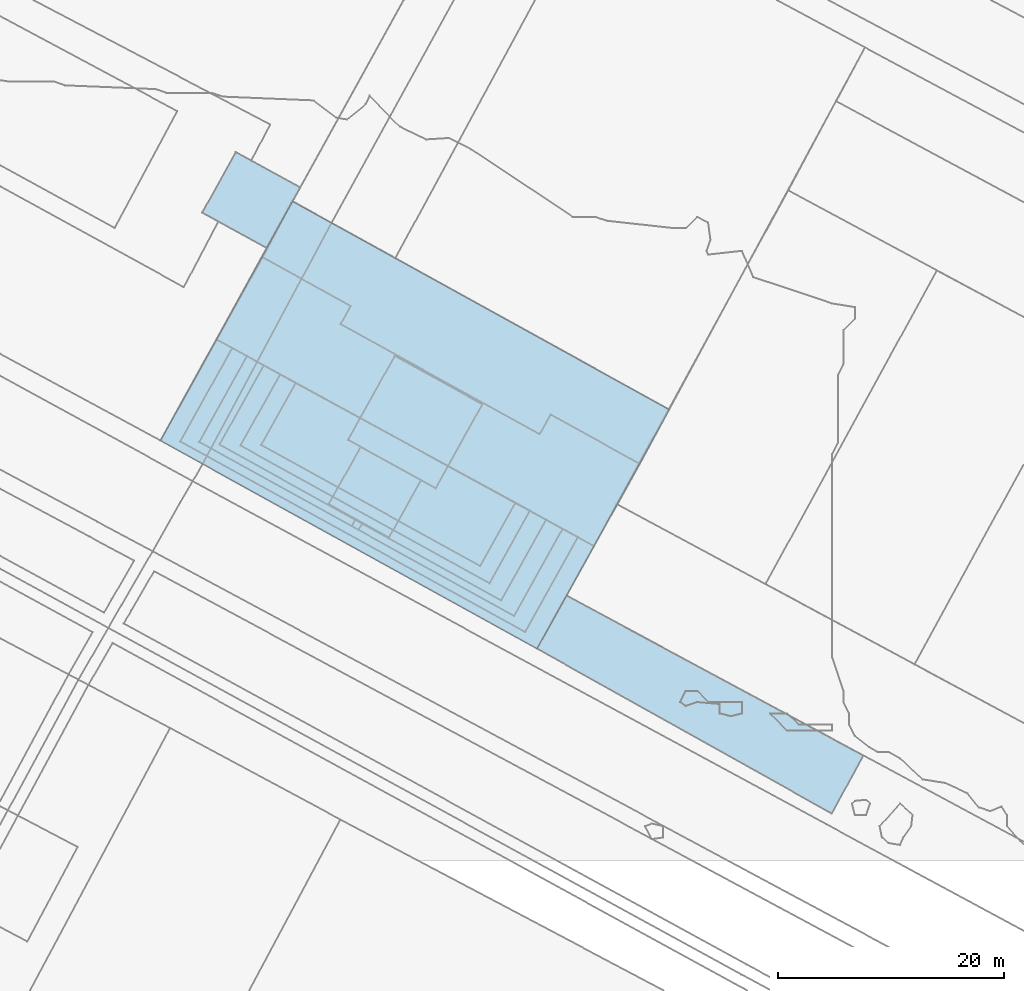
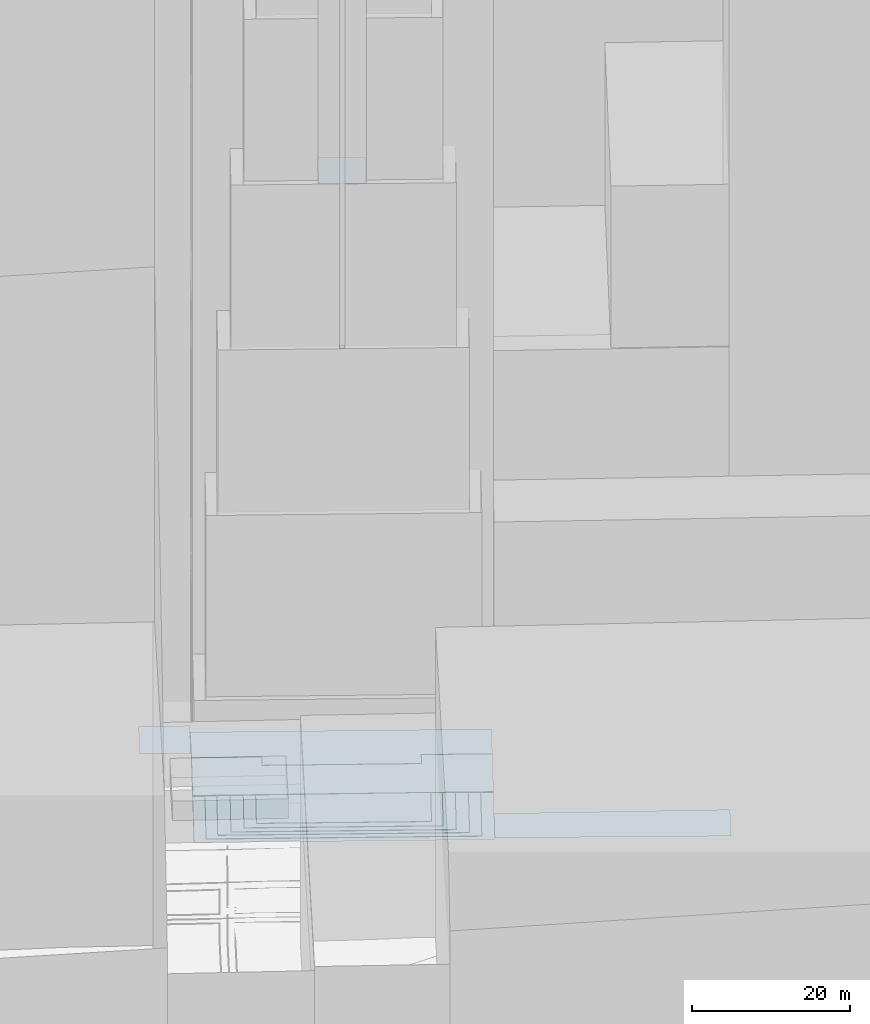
# Not in any storey, part 2 of 80: 14 footings.
"""IFC4 building model written with IfcOpenShell, lengths in metres."""

from ifc_helpers import new_model, si_unit, frame, origin_with_axes, place, context, subcontext, project, spatial, polygons, element, save


model = new_model("IFC4")

# Units and contexts
model_context = context("Model", 3, precision=1e-05, world=origin_with_axes())
body_context = subcontext(model_context, "Body", "Model", "MODEL_VIEW")
ifc_project = project(units=[si_unit("AREAUNIT", "SQUARE_METRE"), si_unit("LENGTHUNIT", "METRE")], contexts=[model_context])

# Sites, building
site_1_placement = place(None, origin_with_axes())
site_1 = spatial("IfcSite", under=ifc_project, at=site_1_placement, Name="Topoexport Site")
site_2_placement = place(site_1_placement, origin_with_axes())
site_2 = spatial("IfcSite", under=site_1, at=site_2_placement, Name="TPX_BATIMENTS")
building_1_placement = place(site_2_placement, frame((114.0067788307, 18.7761491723, 19.812011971), z_axis=(0.0, 0.0, 1.0), x_axis=(1.0, 0.0, 0.0)))
building_1 = spatial("IfcBuilding", under=site_2, at=building_1_placement, Name="Batiment 14", CompositionType="ELEMENT")

# Footing
footing_1_placement = place(None, frame((114.0067788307, 18.7761491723, 19.812011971), z_axis=(0.0, 0.0, 1.0), x_axis=(1.0, 0.0, 0.0)))
element("IfcFooting", 1, at=footing_1_placement, inside=building_1, Name="Sol 0", context=body_context, shape_type="Tessellation", body=[
    polygons([(0.0, 0.0, 0.0), (26.1365112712, -14.6177862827, 0.0), (28.9299641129, -9.4671911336, 0.0), (2.6213710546, 4.7044961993, 0.0)], [[[2, 1, 4]], [[4, 3, 2]]]),
])

# Building
building_2_placement = place(site_2_placement, frame((80.6336597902, 37.2179875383, 19.5500389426), z_axis=(0.0, 0.0, 1.0), x_axis=(1.0, 0.0, 0.0)))
building_2 = spatial("IfcBuilding", under=site_2, at=building_2_placement, Name="Batiment 21", CompositionType="ELEMENT")

# Footing
footing_2_placement = place(None, frame((80.6336597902, 37.2179875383, 19.5500389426), z_axis=(0.0, 0.0, 1.0), x_axis=(1.0, 0.0, 0.0)))
element("IfcFooting", 2, at=footing_2_placement, inside=building_2, Name="Sol 0", context=body_context, shape_type="Tessellation", body=[
    polygons([(0.0, 0.0, 0.0), (33.3731190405, -18.441838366, 0.0), (45.0971948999, 2.7553209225, 0.0), (11.6985592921, 21.2190134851, 0.0)], [[[2, 1, 4]], [[4, 3, 2]]]),
])

# Building
building_3_placement = place(site_2_placement, frame((97.2544970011, 37.2888688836, 19.612828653), z_axis=(0.0, 0.0, 1.0), x_axis=(1.0, 0.0, 0.0)))
building_3 = spatial("IfcBuilding", under=site_2, at=building_3_placement, Name="Batiment 22", CompositionType="ELEMENT")

# Footing
footing_3_placement = place(None, frame((97.2544970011, 37.2888688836, 19.612828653), z_axis=(0.0, 0.0, 1.0), x_axis=(1.0, 0.0, 0.0)))
element("IfcFooting", 3, at=footing_3_placement, inside=building_3, Name="Sol 0", context=body_context, shape_type="Tessellation", body=[
    polygons([(0.0, 0.0, 0.0), (7.7655788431, -4.295199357, 0.0), (11.9084198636, 3.14701657, 0.0), (4.1512866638, 7.4423095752, 0.0)], [[[2, 1, 4]], [[4, 3, 2]]]),
])

# Building
building_4_placement = place(site_2_placement, frame((85.6283664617, 46.1799867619, 19.6882360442), z_axis=(0.0, 0.0, 1.0), x_axis=(1.0, 0.0, 0.0)))
building_4 = spatial("IfcBuilding", under=site_2, at=building_4_placement, Name="Batiment 23", CompositionType="ELEMENT")

# Footing
footing_4_placement = place(None, frame((85.6283664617, 46.1799867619, 19.6882360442), z_axis=(0.0, 0.0, 1.0), x_axis=(1.0, 0.0, 0.0)))
element("IfcFooting", 4, at=footing_4_placement, inside=building_4, Name="Sol 0", context=body_context, shape_type="Tessellation", body=[
    polygons([(0.0, 0.0, 0.0), (33.4391985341, -18.3189230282, 0.0), (37.4908592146, -11.0220874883, 0.0), (29.5893203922, -6.650770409, 0.0), (28.6218928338, -8.3939587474, 0.0), (10.9668168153, 1.3597031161, 0.0), (11.8682699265, 2.9688959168, 0.0), (4.0518112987, 7.2857163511, 0.0)], [[[2, 1, 8]], [[4, 3, 2]], [[8, 7, 6]], [[5, 4, 2]], [[2, 8, 6]], [[6, 5, 2]]]),
])

# Building
building_5_placement = place(site_2_placement, frame((89.6801777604, 53.465703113, 19.6964299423), z_axis=(0.0, 0.0, 1.0), x_axis=(1.0, 0.0, 0.0)))
building_5 = spatial("IfcBuilding", under=site_2, at=building_5_placement, Name="Batiment 24", CompositionType="ELEMENT")

# Footing
footing_5_placement = place(None, frame((89.6801777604, 53.465703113, 19.6964299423), z_axis=(0.0, 0.0, 1.0), x_axis=(1.0, 0.0, 0.0)))
element("IfcFooting", 5, at=footing_5_placement, inside=building_5, Name="Sol 0", context=body_context, shape_type="Tessellation", body=[
    polygons([(0.0, 0.0, 0.0), (7.8164586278, -4.3168204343, 0.0), (6.9150055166, -5.926013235, 0.0), (24.5700815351, -15.6796750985, 0.0), (25.5375090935, -13.9364867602, 0.0), (33.4390479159, -18.3078038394, 0.0), (36.0506769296, -13.4923946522, 0.0), (2.6520413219, 4.9712979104, 0.0)], [[[2, 1, 8]], [[4, 3, 2]], [[7, 6, 5]], [[2, 8, 7]], [[5, 4, 2]], [[2, 7, 5]]]),
])

# Building
building_6_placement = place(site_2_placement, frame((84.3328700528, 57.422623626, 19.717099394), z_axis=(0.0, 0.0, 1.0), x_axis=(1.0, 0.0, 0.0)))
building_6 = spatial("IfcBuilding", under=site_2, at=building_6_placement, Name="Batiment 208", CompositionType="ELEMENT")

# Footing
footing_6_placement = place(None, frame((84.3328700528, 57.422623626, 19.717099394), z_axis=(0.0, 0.0, 1.0), x_axis=(1.0, 0.0, 0.0)))
element("IfcFooting", 6, at=footing_6_placement, inside=building_6, Name="Sol 0", context=body_context, shape_type="Tessellation", body=[
    polygons([(0.0, 0.0, 0.0), (5.7007108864, -3.131250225, 0.0), (8.685731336, 2.2435956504, 0.0), (2.9850231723, 5.3748435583, 0.0)], [[[2, 1, 4]], [[4, 3, 2]]]),
])

# Building
building_7_placement = place(site_2_placement, frame((89.5609801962, 36.8331506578, 19.6677865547), z_axis=(0.0, 0.0, 1.0), x_axis=(1.0, 0.0, 0.0)))
building_7 = spatial("IfcBuilding", under=site_2, at=building_7_placement, Name="Batiment 209", CompositionType="ELEMENT")

# Footing
footing_7_placement = place(None, frame((89.5609801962, 36.8331506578, 19.6677865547), z_axis=(0.0, 0.0, 1.0), x_axis=(1.0, 0.0, 0.0)))
element("IfcFooting", 7, at=footing_7_placement, inside=building_7, Name="Sol 0", context=body_context, shape_type="Tessellation", body=[
    polygons([(0.0, 0.0, 0.0), (19.4138892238, -10.7324529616, 0.0), (22.5396898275, -5.1228171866, 0.0), (3.0597039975, 5.4867351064, 0.0)], [[[2, 1, 4]], [[4, 3, 2]]]),
])

# Building
building_8_placement = place(site_2_placement, frame((87.7213295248, 36.7784814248, 19.6583385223), z_axis=(0.0, 0.0, 1.0), x_axis=(1.0, 0.0, 0.0)))
building_8 = spatial("IfcBuilding", under=site_2, at=building_8_placement, Name="Batiment 210", CompositionType="ELEMENT")

# Footing
footing_8_placement = place(None, frame((87.7213295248, 36.7784814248, 19.6583385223), z_axis=(0.0, 0.0, 1.0), x_axis=(1.0, 0.0, 0.0)))
element("IfcFooting", 8, at=footing_8_placement, inside=building_8, Name="Sol 0", context=body_context, shape_type="Tessellation", body=[
    polygons([(0.0, 0.0, 0.0), (22.0733143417, -12.2114746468, 0.0), (25.6622439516, -5.774892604, 0.0), (24.3793404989, -5.0681479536, 0.0), (21.2535398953, -10.6777837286, 0.0), (1.8396506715, 0.054669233, 0.0), (4.8993546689, 5.5414043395, 0.0), (3.514524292, 6.3024800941, 0.0)], [[[4, 3, 2]], [[8, 7, 6]], [[5, 4, 2]], [[1, 8, 6]], [[5, 2, 1]], [[1, 6, 5]]]),
])

# Building
building_9_placement = place(site_2_placement, frame((85.863250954, 36.8568256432, 19.6310872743), z_axis=(0.0, 0.0, 1.0), x_axis=(1.0, 0.0, 0.0)))
building_9 = spatial("IfcBuilding", under=site_2, at=building_9_placement, Name="Batiment 211", CompositionType="ELEMENT")

# Footing
footing_9_placement = place(None, frame((85.863250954, 36.8568256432, 19.6310872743), z_axis=(0.0, 0.0, 1.0), x_axis=(1.0, 0.0, 0.0)))
element("IfcFooting", 9, at=footing_9_placement, inside=building_9, Name="Sol 0", context=body_context, shape_type="Tessellation", body=[
    polygons([(0.0, 0.0, 0.0), (24.9704931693, -13.8098599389, 0.0), (28.9646281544, -6.6469244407, 0.0), (27.5203225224, -5.8532368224, 0.0), (23.9313929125, -12.2898188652, 0.0), (1.8580785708, -0.0783442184, 0.0), (5.3726028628, 6.2241358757, 0.0), (3.9197328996, 7.0288307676, 0.0)], [[[4, 3, 2]], [[8, 7, 6]], [[5, 4, 2]], [[1, 8, 6]], [[5, 2, 1]], [[1, 6, 5]]]),
])

# Building
building_10_placement = place(site_2_placement, frame((80.6336597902, 37.2179875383, 19.5500389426), z_axis=(0.0, 0.0, 1.0), x_axis=(1.0, 0.0, 0.0)))
building_10 = spatial("IfcBuilding", under=site_2, at=building_10_placement, Name="Batiment 212", CompositionType="ELEMENT")

# Footing
footing_10_placement = place(None, frame((80.6336597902, 37.2179875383, 19.5500389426), z_axis=(0.0, 0.0, 1.0), x_axis=(1.0, 0.0, 0.0)))
element("IfcFooting", 10, at=footing_10_placement, inside=building_10, Name="Sol 0", context=body_context, shape_type="Tessellation", body=[
    polygons([(0.0, 0.0, 0.0), (33.3731190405, -18.441838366, 0.0), (38.4339052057, -9.3569238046, 0.0), (37.006479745, -8.5630409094, 0.0), (32.3260927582, -16.9662987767, 0.0), (1.7566630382, -0.0684208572, 0.0), (6.3625259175, 8.2118271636, 0.0), (4.9947066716, 8.9619992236, 0.0)], [[[4, 3, 2]], [[8, 7, 6]], [[5, 4, 2]], [[1, 8, 6]], [[5, 2, 1]], [[1, 6, 5]]]),
])

# Building
building_11_placement = place(site_2_placement, frame((95.5478595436, 31.5958001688, 119.6064738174), z_axis=(0.0, 0.0, 1.0), x_axis=(1.0, 0.0, 0.0)))
building_11 = spatial("IfcBuilding", under=site_2, at=building_11_placement, Name="Batiment 213", CompositionType="ELEMENT")

# Footing
footing_11_placement = place(None, frame((95.5478595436, 31.5958001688, 119.6064738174), z_axis=(0.0, 0.0, 1.0), x_axis=(1.0, 0.0, 0.0)))
element("IfcFooting", 11, at=footing_11_placement, inside=building_11, Name="Sol 0", context=body_context, shape_type="Tessellation", body=[
    polygons([(0.0, 0.0, 0.0), (5.335986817, -2.9800465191, 0.0), (8.1807445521, 2.1156181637, 0.0), (2.8367063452, 5.0622623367, 0.0)], [[[2, 1, 4]], [[4, 3, 2]]]),
])

# Building
building_12_placement = place(site_2_placement, frame((84.0707632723, 37.1024656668, 19.6050347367), z_axis=(0.0, 0.0, 1.0), x_axis=(1.0, 0.0, 0.0)))
building_12 = spatial("IfcBuilding", under=site_2, at=building_12_placement, Name="Batiment 214", CompositionType="ELEMENT")

# Footing
footing_12_placement = place(None, frame((84.0707632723, 37.1024656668, 19.6050347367), z_axis=(0.0, 0.0, 1.0), x_axis=(1.0, 0.0, 0.0)))
element("IfcFooting", 12, at=footing_12_placement, inside=building_12, Name="Sol 0", context=body_context, shape_type="Tessellation", body=[
    polygons([(0.0, 0.0, 0.0), (27.9101325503, -15.4299566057, 0.0), (32.2099912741, -7.6972545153, 0.0), (30.757115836, -6.8925644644, 0.0), (26.7629808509, -14.0554999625, 0.0), (1.7924876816, -0.2456400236, 0.0), (5.7122205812, 6.783190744, 0.0), (4.233900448, 7.5986926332, 0.0)], [[[4, 3, 2]], [[8, 7, 6]], [[5, 4, 2]], [[1, 8, 6]], [[5, 2, 1]], [[1, 6, 5]]]),
])

# Building
building_13_placement = place(site_2_placement, frame((82.3903228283, 37.1495666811, 19.5783829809), z_axis=(0.0, 0.0, 1.0), x_axis=(1.0, 0.0, 0.0)))
building_13 = spatial("IfcBuilding", under=site_2, at=building_13_placement, Name="Batiment 215", CompositionType="ELEMENT")

# Footing
footing_13_placement = place(None, frame((82.3903228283, 37.1495666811, 19.5783829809), z_axis=(0.0, 0.0, 1.0), x_axis=(1.0, 0.0, 0.0)))
element("IfcFooting", 13, at=footing_13_placement, inside=building_13, Name="Sol 0", context=body_context, shape_type="Tessellation", body=[
    polygons([(0.0, 0.0, 0.0), (30.5694297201, -16.8978779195, 0.0), (35.2498167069, -8.4946200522, 0.0), (33.8904317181, -7.7443555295, 0.0), (29.5905729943, -15.47705762, 0.0), (1.680440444, -0.0471010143, 0.0), (5.914340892, 7.5515916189, 0.0), (4.6058628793, 8.2802480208, 0.0)], [[[4, 3, 2]], [[8, 7, 6]], [[5, 4, 2]], [[1, 8, 6]], [[5, 2, 1]], [[1, 6, 5]]]),
])

# Building
building_14_placement = place(site_2_placement, frame((97.5797854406, 29.6320950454, 94.6297663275), z_axis=(0.0, 0.0, 1.0), x_axis=(1.0, 0.0, 0.0)))
building_14 = spatial("IfcBuilding", under=site_2, at=building_14_placement, Name="Batiment 216", CompositionType="ELEMENT")

# Footing
footing_14_placement = place(None, frame((97.5797854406, 29.6320950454, 94.6297663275), z_axis=(0.0, 0.0, 1.0), x_axis=(1.0, 0.0, 0.0)))
element("IfcFooting", 14, at=footing_14_placement, inside=building_14, Name="Sol 0", context=body_context, shape_type="Tessellation", body=[
    polygons([(0.0, 0.0, 0.0), (0.6117158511, -0.3370655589, 0.0), (0.9674399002, 0.2887915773, 0.0), (0.3557240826, 0.6258571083, 0.0)], [[[2, 1, 4]], [[4, 3, 2]]]),
])

save(model, "model.ifc")
